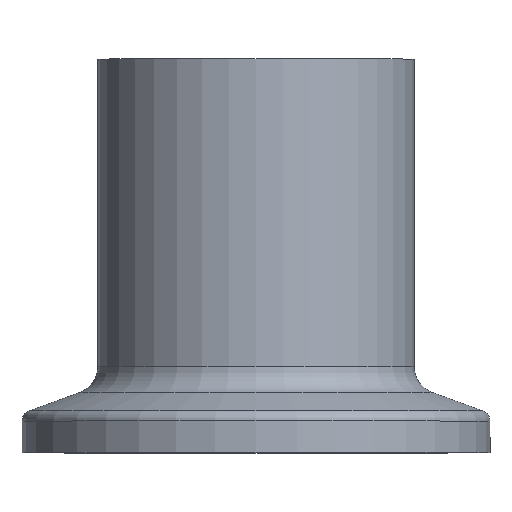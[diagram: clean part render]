
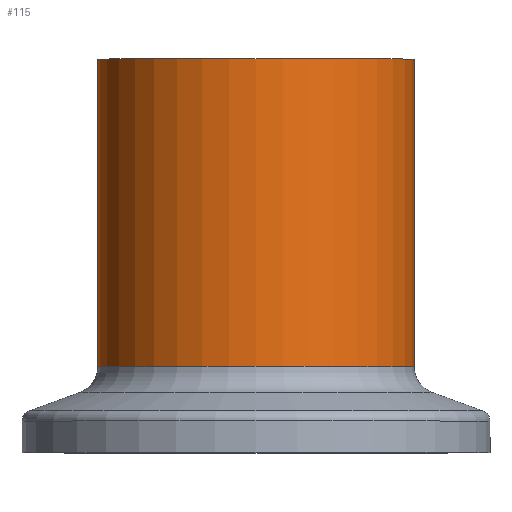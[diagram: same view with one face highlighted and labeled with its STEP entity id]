
A CAD part, top view. The second image highlights one B-rep face of the part: STEP entity #115.
In plain terms, the highlighted cylindrical face has radius 11.5 mm (diameter 23 mm), a full revolution.
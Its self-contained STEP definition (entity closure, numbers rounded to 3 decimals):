
#73=CARTESIAN_POINT('',(11.5,28.6,0.0));
#74=VERTEX_POINT('',#73);
#75=CARTESIAN_POINT('',(0.0,28.6,0.0));
#76=DIRECTION('',(0.0,-1.0,0.0));
#77=DIRECTION('',(1.0,0.0,0.0));
#78=AXIS2_PLACEMENT_3D('',#75,#76,#77);
#79=CIRCLE('',#78,11.5);
#80=EDGE_CURVE('',#74,#74,#79,.T.);
#96=CARTESIAN_POINT('',(0.0,17.426,0.0));
#97=DIRECTION('',(0.0,-1.0,0.0));
#98=DIRECTION('',(1.0,0.0,0.0));
#99=AXIS2_PLACEMENT_3D('',#96,#97,#98);
#100=CYLINDRICAL_SURFACE('',#99,11.5);
#101=CARTESIAN_POINT('',(11.5,6.252,0.0));
#102=VERTEX_POINT('',#101);
#103=CARTESIAN_POINT('',(0.0,6.252,0.0));
#104=DIRECTION('',(0.0,-1.0,0.0));
#105=DIRECTION('',(1.0,0.0,0.0));
#106=AXIS2_PLACEMENT_3D('',#103,#104,#105);
#107=CIRCLE('',#106,11.5);
#108=EDGE_CURVE('',#102,#102,#107,.T.);
#109=ORIENTED_EDGE('',*,*,#108,.F.);
#110=EDGE_LOOP('',(#109));
#111=FACE_OUTER_BOUND('',#110,.T.);
#112=ORIENTED_EDGE('',*,*,#80,.T.);
#113=EDGE_LOOP('',(#112));
#114=FACE_BOUND('',#113,.T.);
#115=ADVANCED_FACE('',(#111,#114),#100,.T.);
